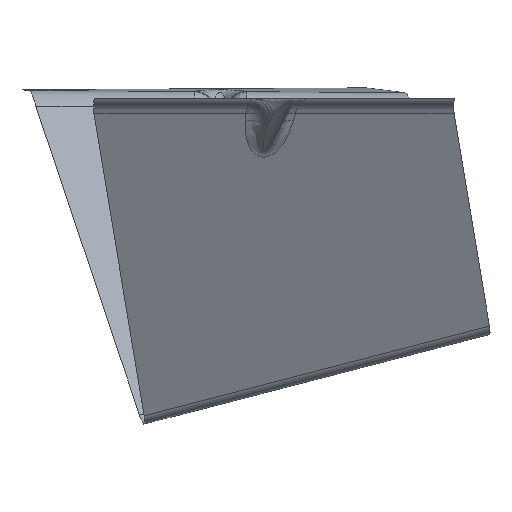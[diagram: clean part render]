
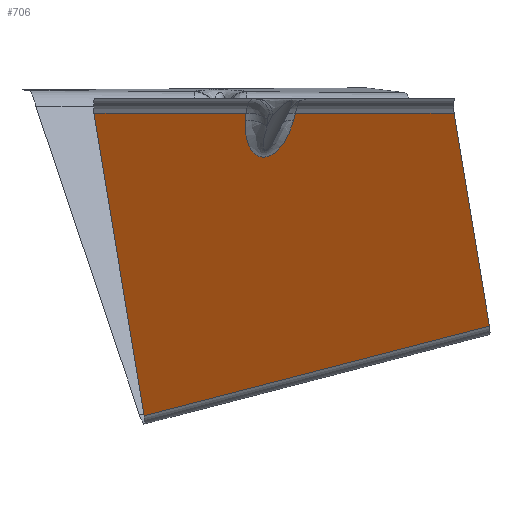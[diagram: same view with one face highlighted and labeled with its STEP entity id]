
A CAD part, left-side view. The second image highlights one B-rep face of the part: STEP entity #706.
In plain terms, the highlighted planar face has unit normal (-0.83, -0.249, -0.5).
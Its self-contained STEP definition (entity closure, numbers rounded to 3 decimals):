
#251=CARTESIAN_POINT('Vertex',(-94.442,7.977,-0.95)) ;
#274=CARTESIAN_POINT('Line Origine',(-74.989,10.262,-34.36)) ;
#278=CARTESIAN_POINT('Vertex',(-93.294,8.112,-2.921)) ;
#591=CARTESIAN_POINT('Control Point',(-89.276,-5.283,-2.921)) ;
#592=CARTESIAN_POINT('Control Point',(-89.057,-5.173,-3.338)) ;
#593=CARTESIAN_POINT('Control Point',(-88.842,-5.053,-3.755)) ;
#594=CARTESIAN_POINT('Control Point',(-88.63,-4.922,-4.172)) ;
#595=CARTESIAN_POINT('Control Point',(-88.032,-4.517,-5.365)) ;
#596=CARTESIAN_POINT('Control Point',(-87.468,-4.019,-6.55)) ;
#597=CARTESIAN_POINT('Control Point',(-87.118,-3.652,-7.313)) ;
#598=CARTESIAN_POINT('Control Point',(-86.646,-3.062,-8.39)) ;
#599=CARTESIAN_POINT('Control Point',(-86.229,-2.347,-9.436)) ;
#600=CARTESIAN_POINT('Control Point',(-86.112,-2.123,-9.743)) ;
#601=CARTESIAN_POINT('Control Point',(-85.907,-1.688,-10.298)) ;
#602=CARTESIAN_POINT('Control Point',(-85.729,-1.202,-10.836)) ;
#603=CARTESIAN_POINT('Control Point',(-85.655,-0.968,-11.076)) ;
#604=CARTESIAN_POINT('Control Point',(-85.534,-0.523,-11.498)) ;
#605=CARTESIAN_POINT('Control Point',(-85.444,-0.029,-11.892)) ;
#606=CARTESIAN_POINT('Control Point',(-85.412,0.202,-12.062)) ;
#607=CARTESIAN_POINT('Control Point',(-85.36,0.732,-12.412)) ;
#608=CARTESIAN_POINT('Control Point',(-85.359,1.325,-12.707)) ;
#609=CARTESIAN_POINT('Control Point',(-85.378,1.668,-12.847)) ;
#610=CARTESIAN_POINT('Control Point',(-85.446,2.227,-13.012)) ;
#611=CARTESIAN_POINT('Control Point',(-85.579,2.805,-13.08)) ;
#612=CARTESIAN_POINT('Control Point',(-85.634,3.011,-13.091)) ;
#613=CARTESIAN_POINT('Control Point',(-85.776,3.467,-13.083)) ;
#614=CARTESIAN_POINT('Control Point',(-85.951,3.9,-13.008)) ;
#615=CARTESIAN_POINT('Control Point',(-86.056,4.129,-12.947)) ;
#616=CARTESIAN_POINT('Control Point',(-86.409,4.816,-12.704)) ;
#617=CARTESIAN_POINT('Control Point',(-86.801,5.377,-12.332)) ;
#618=CARTESIAN_POINT('Control Point',(-87.076,5.708,-12.041)) ;
#619=CARTESIAN_POINT('Control Point',(-87.535,6.193,-11.52)) ;
#620=CARTESIAN_POINT('Control Point',(-87.991,6.581,-10.957)) ;
#621=CARTESIAN_POINT('Control Point',(-88.176,6.725,-10.722)) ;
#622=CARTESIAN_POINT('Control Point',(-88.592,7.024,-10.18)) ;
#623=CARTESIAN_POINT('Control Point',(-89.002,7.267,-9.62)) ;
#624=CARTESIAN_POINT('Control Point',(-89.229,7.387,-9.304)) ;
#625=CARTESIAN_POINT('Control Point',(-89.733,7.628,-8.588)) ;
#626=CARTESIAN_POINT('Control Point',(-90.227,7.807,-7.858)) ;
#627=CARTESIAN_POINT('Control Point',(-90.498,7.891,-7.45)) ;
#628=CARTESIAN_POINT('Control Point',(-91.241,8.081,-6.311)) ;
#629=CARTESIAN_POINT('Control Point',(-91.963,8.165,-5.156)) ;
#630=CARTESIAN_POINT('Control Point',(-92.415,8.181,-4.414)) ;
#631=CARTESIAN_POINT('Control Point',(-92.859,8.163,-3.668)) ;
#632=CARTESIAN_POINT('Control Point',(-93.294,8.112,-2.921)) ;
#633=CARTESIAN_POINT('Vertex',(-89.276,-5.283,-2.921)) ;
#651=CARTESIAN_POINT('Axis2P3D Location',(-41.959,-12.588,-77.785)) ;
#656=CARTESIAN_POINT('Line Origine',(-89.792,-5.542,-1.936)) ;
#660=CARTESIAN_POINT('Vertex',(-90.308,-5.802,-0.95)) ;
#663=CARTESIAN_POINT('Line Origine',(-100.769,29.068,-0.95)) ;
#667=CARTESIAN_POINT('Vertex',(-107.097,50.159,-0.95)) ;
#670=CARTESIAN_POINT('Line Origine',(-79.716,43.198,-42.909)) ;
#674=CARTESIAN_POINT('Vertex',(-52.336,36.237,-84.868)) ;
#677=CARTESIAN_POINT('Line Origine',(-45.456,-11.699,-72.426)) ;
#681=CARTESIAN_POINT('Vertex',(-38.575,-59.634,-59.983)) ;
#684=CARTESIAN_POINT('Line Origine',(-57.836,-54.738,-30.467)) ;
#688=CARTESIAN_POINT('Vertex',(-77.097,-49.841,-0.95)) ;
#691=CARTESIAN_POINT('Line Origine',(-83.702,-27.821,-0.95)) ;
#275=DIRECTION('Vector Direction',(0.502,0.059,-0.863)) ;
#652=DIRECTION('Axis2P3D Direction',(0.83,0.249,0.5)) ;
#653=DIRECTION('Axis2P3D XDirection',(0.541,-0.138,-0.83)) ;
#657=DIRECTION('Vector Direction',(-0.452,-0.227,0.863)) ;
#664=DIRECTION('Vector Direction',(0.287,-0.958,0.)) ;
#671=DIRECTION('Vector Direction',(0.541,-0.138,-0.83)) ;
#678=DIRECTION('Vector Direction',(0.138,-0.959,0.249)) ;
#685=DIRECTION('Vector Direction',(-0.541,0.138,0.83)) ;
#692=DIRECTION('Vector Direction',(0.287,-0.958,0.)) ;
#654=AXIS2_PLACEMENT_3D('Plane Axis2P3D',#651,#652,#653) ;
#697=ORIENTED_EDGE('',*,*,#662,.T.) ;
#698=ORIENTED_EDGE('',*,*,#635,.T.) ;
#699=ORIENTED_EDGE('',*,*,#280,.T.) ;
#700=ORIENTED_EDGE('',*,*,#669,.F.) ;
#701=ORIENTED_EDGE('',*,*,#676,.T.) ;
#702=ORIENTED_EDGE('',*,*,#683,.T.) ;
#703=ORIENTED_EDGE('',*,*,#690,.T.) ;
#704=ORIENTED_EDGE('',*,*,#695,.F.) ;
#276=VECTOR('Line Direction',#275,1.) ;
#658=VECTOR('Line Direction',#657,1.) ;
#665=VECTOR('Line Direction',#664,1.) ;
#672=VECTOR('Line Direction',#671,1.) ;
#679=VECTOR('Line Direction',#678,1.) ;
#686=VECTOR('Line Direction',#685,1.) ;
#693=VECTOR('Line Direction',#692,1.) ;
#706=ADVANCED_FACE('Extract.1',(#705),#655,.F.) ;
#590=B_SPLINE_CURVE_WITH_KNOTS('',5,(#591,#592,#593,#594,#595,#596,#597,#598,#599,#600,#601,#602,#603,#604,#605,#606,#607,#608,#609,#610,#611,#612,#613,#614,#615,#616,#617,#618,#619,#620,#621,#622,#623,#624,#625,#626,#627,#628,#629,#630,#631,#632),.UNSPECIFIED.,.F.,.U.,(6,3,3,3,3,3,3,3,3,3,3,3,3,6),(24.947,28.164,34.184,36.716,38.837,40.536,42.541,43.646,45.009,47.998,50.058,52.662,55.892,61.649),.UNSPECIFIED.) ;
#280=EDGE_CURVE('',#279,#252,#277,.F.) ;
#635=EDGE_CURVE('',#634,#279,#590,.T.) ;
#662=EDGE_CURVE('',#661,#634,#659,.F.) ;
#669=EDGE_CURVE('',#668,#252,#666,.T.) ;
#676=EDGE_CURVE('',#668,#675,#673,.T.) ;
#683=EDGE_CURVE('',#675,#682,#680,.T.) ;
#690=EDGE_CURVE('',#682,#689,#687,.T.) ;
#695=EDGE_CURVE('',#661,#689,#694,.T.) ;
#696=EDGE_LOOP('',(#697,#698,#699,#700,#701,#702,#703,#704)) ;
#705=FACE_OUTER_BOUND('',#696,.T.) ;
#277=LINE('Line',#274,#276) ;
#659=LINE('Line',#656,#658) ;
#666=LINE('Line',#663,#665) ;
#673=LINE('Line',#670,#672) ;
#680=LINE('Line',#677,#679) ;
#687=LINE('Line',#684,#686) ;
#694=LINE('Line',#691,#693) ;
#655=PLANE('',#654) ;
#252=VERTEX_POINT('',#251) ;
#279=VERTEX_POINT('',#278) ;
#634=VERTEX_POINT('',#633) ;
#661=VERTEX_POINT('',#660) ;
#668=VERTEX_POINT('',#667) ;
#675=VERTEX_POINT('',#674) ;
#682=VERTEX_POINT('',#681) ;
#689=VERTEX_POINT('',#688) ;
